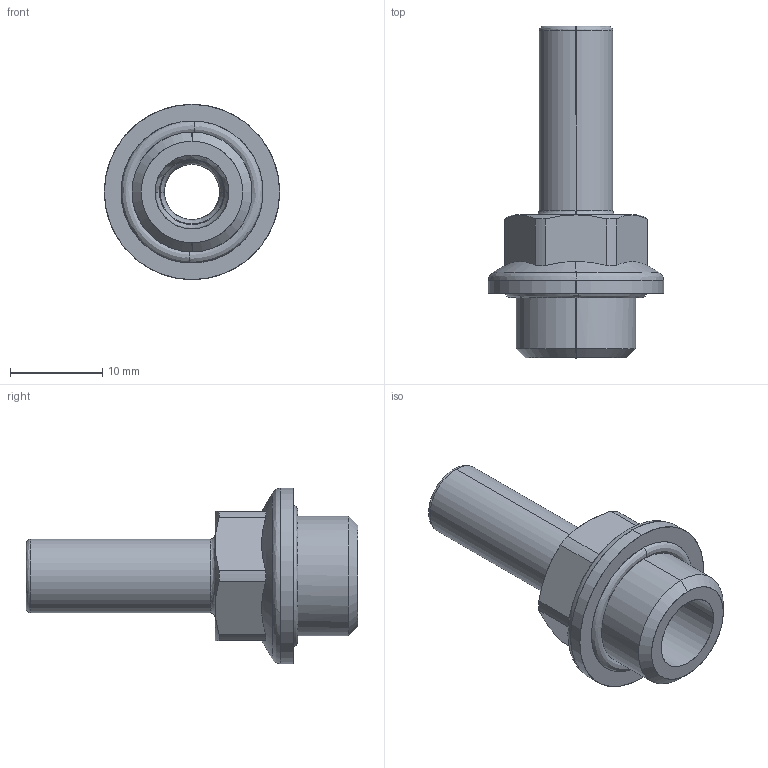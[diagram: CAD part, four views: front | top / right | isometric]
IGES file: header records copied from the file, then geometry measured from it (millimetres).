
Start section: SolidWorks IGES file using analytic representation for surfaces
Global section: file name: K:\Disegni Esecutivi\SERIE 54000\54000-Assiemi\54600\IGES\5460000006A.IGS; native system: SolidWorks 2020; preprocessor: SolidWorks 2020; author: CAD13; date: 240920.140753; units: millimetre
Bounding box: 19 x 36 x 19 mm (x, y, z)
Surface area: 2391.7 mm2 (no closed solid volume)
Topology: 0 solids, 0 shells, 50 faces, 560 edges, 560 vertices
Faces by surface type: revolution 28, bspline 22
